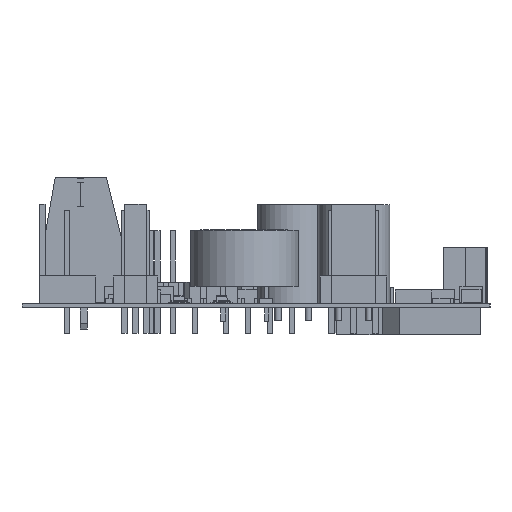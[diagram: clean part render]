
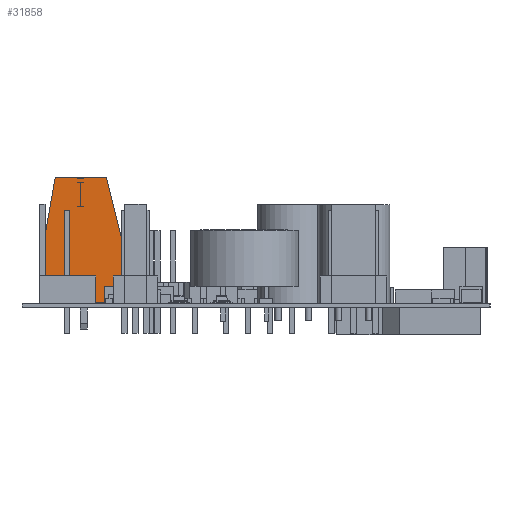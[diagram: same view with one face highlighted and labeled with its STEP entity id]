
A CAD part, left-side view. The second image highlights one B-rep face of the part: STEP entity #31858.
In plain terms, the highlighted planar face has unit normal (-1, 0, 0) as drawn and (1, 0, 0) by its records, which use the part's own axes.
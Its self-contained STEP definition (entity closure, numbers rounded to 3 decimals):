
#29539 = PLANE('',#29540);
#29540 = AXIS2_PLACEMENT_3D('',#29541,#29542,#29543);
#29541 = CARTESIAN_POINT('',(-7.506,0.,4.064));
#29542 = DIRECTION('',(0.,1.,0.));
#29543 = DIRECTION('',(0.,0.,1.));
#29567 = PLANE('',#29568);
#29568 = AXIS2_PLACEMENT_3D('',#29569,#29570,#29571);
#29569 = CARTESIAN_POINT('',(-7.506,0.,4.445));
#29570 = DIRECTION('',(0.,0.,1.));
#29571 = DIRECTION('',(0.,-1.,0.));
#29595 = PLANE('',#29596);
#29596 = AXIS2_PLACEMENT_3D('',#29597,#29598,#29599);
#29597 = CARTESIAN_POINT('',(-7.506,-7.874,4.445));
#29598 = DIRECTION('',(0.,-1.,0.));
#29599 = DIRECTION('',(0.,0.,-1.));
#29623 = PLANE('',#29624);
#29624 = AXIS2_PLACEMENT_3D('',#29625,#29626,#29627);
#29625 = CARTESIAN_POINT('',(-7.506,-7.874,-5.461));
#29626 = DIRECTION('',(0.,0.,-1.));
#29627 = DIRECTION('',(0.,1.,0.));
#29651 = PLANE('',#29652);
#29652 = AXIS2_PLACEMENT_3D('',#29653,#29654,#29655);
#29653 = CARTESIAN_POINT('',(-7.506,-3.302,-5.461));
#29654 = DIRECTION('',(0.,0.242,-0.97));
#29655 = DIRECTION('',(0.,0.97,0.242));
#29679 = PLANE('',#29680);
#29680 = AXIS2_PLACEMENT_3D('',#29681,#29682,#29683);
#29681 = CARTESIAN_POINT('',(-7.506,6.604,-2.991));
#29682 = DIRECTION('',(0.,1.,0.));
#29683 = DIRECTION('',(0.,0.,1.));
#29705 = PLANE('',#29706);
#29706 = AXIS2_PLACEMENT_3D('',#29707,#29708,#29709);
#29707 = CARTESIAN_POINT('',(-7.506,6.604,2.9));
#29708 = DIRECTION('',(0.,0.174,0.985));
#29709 = DIRECTION('',(0.,-0.985,0.174));
#29722 = VERTEX_POINT('',#29723);
#29723 = CARTESIAN_POINT('',(7.506,0.,4.064));
#29744 = EDGE_CURVE('',#29722,#29745,#29747,.T.);
#29745 = VERTEX_POINT('',#29746);
#29746 = CARTESIAN_POINT('',(7.506,0.,4.445));
#29747 = SURFACE_CURVE('',#29748,(#29752,#29759),.PCURVE_S1.);
#29748 = LINE('',#29749,#29750);
#29749 = CARTESIAN_POINT('',(7.506,0.,4.064));
#29750 = VECTOR('',#29751,1.);
#29751 = DIRECTION('',(0.,0.,1.));
#29752 = PCURVE('',#29539,#29753);
#29753 = DEFINITIONAL_REPRESENTATION('',(#29754),#29758);
#29754 = LINE('',#29755,#29756);
#29755 = CARTESIAN_POINT('',(0.,15.011));
#29756 = VECTOR('',#29757,1.);
#29757 = DIRECTION('',(1.,0.));
#29758 = ( GEOMETRIC_REPRESENTATION_CONTEXT(2) 
PARAMETRIC_REPRESENTATION_CONTEXT() REPRESENTATION_CONTEXT('2D SPACE',''
  ) );
#29759 = PCURVE('',#29760,#29765);
#29760 = PLANE('',#29761);
#29761 = AXIS2_PLACEMENT_3D('',#29762,#29763,#29764);
#29762 = CARTESIAN_POINT('',(7.506,0.,0.));
#29763 = DIRECTION('',(1.,0.,0.));
#29764 = DIRECTION('',(0.,0.,-1.));
#29765 = DEFINITIONAL_REPRESENTATION('',(#29766),#29770);
#29766 = LINE('',#29767,#29768);
#29767 = CARTESIAN_POINT('',(-4.064,0.));
#29768 = VECTOR('',#29769,1.);
#29769 = DIRECTION('',(-1.,0.));
#29770 = ( GEOMETRIC_REPRESENTATION_CONTEXT(2) 
PARAMETRIC_REPRESENTATION_CONTEXT() REPRESENTATION_CONTEXT('2D SPACE',''
  ) );
#29798 = VERTEX_POINT('',#29799);
#29799 = CARTESIAN_POINT('',(7.506,6.604,2.9));
#29820 = EDGE_CURVE('',#29798,#29722,#29821,.T.);
#29821 = SURFACE_CURVE('',#29822,(#29826,#29833),.PCURVE_S1.);
#29822 = LINE('',#29823,#29824);
#29823 = CARTESIAN_POINT('',(7.506,6.604,2.9));
#29824 = VECTOR('',#29825,1.);
#29825 = DIRECTION('',(0.,-0.985,0.174));
#29826 = PCURVE('',#29705,#29827);
#29827 = DEFINITIONAL_REPRESENTATION('',(#29828),#29832);
#29828 = LINE('',#29829,#29830);
#29829 = CARTESIAN_POINT('',(0.,15.011));
#29830 = VECTOR('',#29831,1.);
#29831 = DIRECTION('',(1.,0.));
#29832 = ( GEOMETRIC_REPRESENTATION_CONTEXT(2) 
PARAMETRIC_REPRESENTATION_CONTEXT() REPRESENTATION_CONTEXT('2D SPACE',''
  ) );
#29833 = PCURVE('',#29760,#29834);
#29834 = DEFINITIONAL_REPRESENTATION('',(#29835),#29839);
#29835 = LINE('',#29836,#29837);
#29836 = CARTESIAN_POINT('',(-2.9,6.604));
#29837 = VECTOR('',#29838,1.);
#29838 = DIRECTION('',(-0.174,-0.985));
#29839 = ( GEOMETRIC_REPRESENTATION_CONTEXT(2) 
PARAMETRIC_REPRESENTATION_CONTEXT() REPRESENTATION_CONTEXT('2D SPACE',''
  ) );
#29847 = VERTEX_POINT('',#29848);
#29848 = CARTESIAN_POINT('',(7.506,6.604,-2.991));
#29869 = EDGE_CURVE('',#29847,#29798,#29870,.T.);
#29870 = SURFACE_CURVE('',#29871,(#29875,#29882),.PCURVE_S1.);
#29871 = LINE('',#29872,#29873);
#29872 = CARTESIAN_POINT('',(7.506,6.604,-2.991));
#29873 = VECTOR('',#29874,1.);
#29874 = DIRECTION('',(0.,0.,1.));
#29875 = PCURVE('',#29679,#29876);
#29876 = DEFINITIONAL_REPRESENTATION('',(#29877),#29881);
#29877 = LINE('',#29878,#29879);
#29878 = CARTESIAN_POINT('',(0.,15.011));
#29879 = VECTOR('',#29880,1.);
#29880 = DIRECTION('',(1.,0.));
#29881 = ( GEOMETRIC_REPRESENTATION_CONTEXT(2) 
PARAMETRIC_REPRESENTATION_CONTEXT() REPRESENTATION_CONTEXT('2D SPACE',''
  ) );
#29882 = PCURVE('',#29760,#29883);
#29883 = DEFINITIONAL_REPRESENTATION('',(#29884),#29888);
#29884 = LINE('',#29885,#29886);
#29885 = CARTESIAN_POINT('',(2.991,6.604));
#29886 = VECTOR('',#29887,1.);
#29887 = DIRECTION('',(-1.,0.));
#29888 = ( GEOMETRIC_REPRESENTATION_CONTEXT(2) 
PARAMETRIC_REPRESENTATION_CONTEXT() REPRESENTATION_CONTEXT('2D SPACE',''
  ) );
#30155 = VERTEX_POINT('',#30156);
#30156 = CARTESIAN_POINT('',(7.506,-3.302,-5.461));
#30177 = EDGE_CURVE('',#30155,#29847,#30178,.T.);
#30178 = SURFACE_CURVE('',#30179,(#30183,#30190),.PCURVE_S1.);
#30179 = LINE('',#30180,#30181);
#30180 = CARTESIAN_POINT('',(7.506,-3.302,-5.461));
#30181 = VECTOR('',#30182,1.);
#30182 = DIRECTION('',(0.,0.97,0.242));
#30183 = PCURVE('',#29651,#30184);
#30184 = DEFINITIONAL_REPRESENTATION('',(#30185),#30189);
#30185 = LINE('',#30186,#30187);
#30186 = CARTESIAN_POINT('',(0.,15.011));
#30187 = VECTOR('',#30188,1.);
#30188 = DIRECTION('',(1.,0.));
#30189 = ( GEOMETRIC_REPRESENTATION_CONTEXT(2) 
PARAMETRIC_REPRESENTATION_CONTEXT() REPRESENTATION_CONTEXT('2D SPACE',''
  ) );
#30190 = PCURVE('',#29760,#30191);
#30191 = DEFINITIONAL_REPRESENTATION('',(#30192),#30196);
#30192 = LINE('',#30193,#30194);
#30193 = CARTESIAN_POINT('',(5.461,-3.302));
#30194 = VECTOR('',#30195,1.);
#30195 = DIRECTION('',(-0.242,0.97));
#30196 = ( GEOMETRIC_REPRESENTATION_CONTEXT(2) 
PARAMETRIC_REPRESENTATION_CONTEXT() REPRESENTATION_CONTEXT('2D SPACE',''
  ) );
#30687 = VERTEX_POINT('',#30688);
#30688 = CARTESIAN_POINT('',(7.506,-7.874,-5.461));
#30709 = EDGE_CURVE('',#30687,#30155,#30710,.T.);
#30710 = SURFACE_CURVE('',#30711,(#30715,#30722),.PCURVE_S1.);
#30711 = LINE('',#30712,#30713);
#30712 = CARTESIAN_POINT('',(7.506,-7.874,-5.461));
#30713 = VECTOR('',#30714,1.);
#30714 = DIRECTION('',(0.,1.,0.));
#30715 = PCURVE('',#29623,#30716);
#30716 = DEFINITIONAL_REPRESENTATION('',(#30717),#30721);
#30717 = LINE('',#30718,#30719);
#30718 = CARTESIAN_POINT('',(0.,15.011));
#30719 = VECTOR('',#30720,1.);
#30720 = DIRECTION('',(1.,0.));
#30721 = ( GEOMETRIC_REPRESENTATION_CONTEXT(2) 
PARAMETRIC_REPRESENTATION_CONTEXT() REPRESENTATION_CONTEXT('2D SPACE',''
  ) );
#30722 = PCURVE('',#29760,#30723);
#30723 = DEFINITIONAL_REPRESENTATION('',(#30724),#30728);
#30724 = LINE('',#30725,#30726);
#30725 = CARTESIAN_POINT('',(5.461,-7.874));
#30726 = VECTOR('',#30727,1.);
#30727 = DIRECTION('',(0.,1.));
#30728 = ( GEOMETRIC_REPRESENTATION_CONTEXT(2) 
PARAMETRIC_REPRESENTATION_CONTEXT() REPRESENTATION_CONTEXT('2D SPACE',''
  ) );
#31104 = VERTEX_POINT('',#31105);
#31105 = CARTESIAN_POINT('',(7.506,-7.874,4.445));
#31126 = EDGE_CURVE('',#31104,#30687,#31127,.T.);
#31127 = SURFACE_CURVE('',#31128,(#31132,#31139),.PCURVE_S1.);
#31128 = LINE('',#31129,#31130);
#31129 = CARTESIAN_POINT('',(7.506,-7.874,4.445));
#31130 = VECTOR('',#31131,1.);
#31131 = DIRECTION('',(0.,0.,-1.));
#31132 = PCURVE('',#29595,#31133);
#31133 = DEFINITIONAL_REPRESENTATION('',(#31134),#31138);
#31134 = LINE('',#31135,#31136);
#31135 = CARTESIAN_POINT('',(0.,15.011));
#31136 = VECTOR('',#31137,1.);
#31137 = DIRECTION('',(1.,0.));
#31138 = ( GEOMETRIC_REPRESENTATION_CONTEXT(2) 
PARAMETRIC_REPRESENTATION_CONTEXT() REPRESENTATION_CONTEXT('2D SPACE',''
  ) );
#31139 = PCURVE('',#29760,#31140);
#31140 = DEFINITIONAL_REPRESENTATION('',(#31141),#31145);
#31141 = LINE('',#31142,#31143);
#31142 = CARTESIAN_POINT('',(-4.445,-7.874));
#31143 = VECTOR('',#31144,1.);
#31144 = DIRECTION('',(1.,0.));
#31145 = ( GEOMETRIC_REPRESENTATION_CONTEXT(2) 
PARAMETRIC_REPRESENTATION_CONTEXT() REPRESENTATION_CONTEXT('2D SPACE',''
  ) );
#31495 = EDGE_CURVE('',#29745,#31104,#31496,.T.);
#31496 = SURFACE_CURVE('',#31497,(#31501,#31508),.PCURVE_S1.);
#31497 = LINE('',#31498,#31499);
#31498 = CARTESIAN_POINT('',(7.506,0.,4.445));
#31499 = VECTOR('',#31500,1.);
#31500 = DIRECTION('',(0.,-1.,0.));
#31501 = PCURVE('',#29567,#31502);
#31502 = DEFINITIONAL_REPRESENTATION('',(#31503),#31507);
#31503 = LINE('',#31504,#31505);
#31504 = CARTESIAN_POINT('',(0.,15.011));
#31505 = VECTOR('',#31506,1.);
#31506 = DIRECTION('',(1.,0.));
#31507 = ( GEOMETRIC_REPRESENTATION_CONTEXT(2) 
PARAMETRIC_REPRESENTATION_CONTEXT() REPRESENTATION_CONTEXT('2D SPACE',''
  ) );
#31508 = PCURVE('',#29760,#31509);
#31509 = DEFINITIONAL_REPRESENTATION('',(#31510),#31514);
#31510 = LINE('',#31511,#31512);
#31511 = CARTESIAN_POINT('',(-4.445,0.));
#31512 = VECTOR('',#31513,1.);
#31513 = DIRECTION('',(0.,-1.));
#31514 = ( GEOMETRIC_REPRESENTATION_CONTEXT(2) 
PARAMETRIC_REPRESENTATION_CONTEXT() REPRESENTATION_CONTEXT('2D SPACE',''
  ) );
#31858 = ADVANCED_FACE('',(#31859),#29760,.T.);
#31859 = FACE_BOUND('',#31860,.F.);
#31860 = EDGE_LOOP('',(#31861,#31862,#31863,#31864,#31865,#31866,#31867)
  );
#31861 = ORIENTED_EDGE('',*,*,#29744,.F.);
#31862 = ORIENTED_EDGE('',*,*,#29820,.F.);
#31863 = ORIENTED_EDGE('',*,*,#29869,.F.);
#31864 = ORIENTED_EDGE('',*,*,#30177,.F.);
#31865 = ORIENTED_EDGE('',*,*,#30709,.F.);
#31866 = ORIENTED_EDGE('',*,*,#31126,.F.);
#31867 = ORIENTED_EDGE('',*,*,#31495,.F.);
